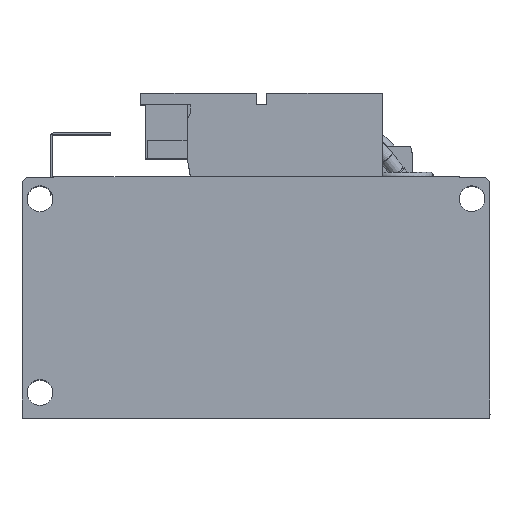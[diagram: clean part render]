
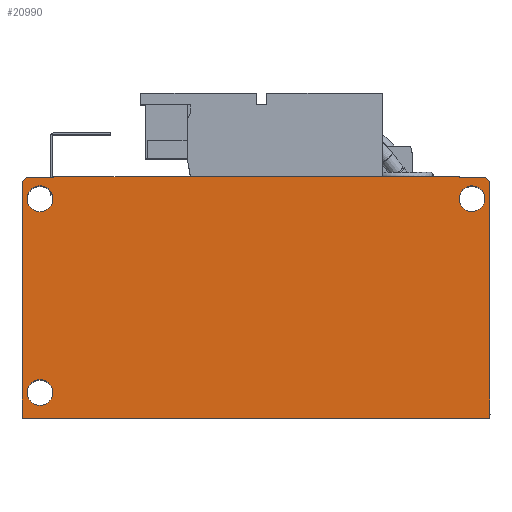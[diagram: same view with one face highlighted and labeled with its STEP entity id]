
A CAD part, top view. The second image highlights one B-rep face of the part: STEP entity #20990.
In plain terms, the highlighted planar face has unit normal (0, 0, 1).
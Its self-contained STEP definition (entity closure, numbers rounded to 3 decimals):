
#1040=CARTESIAN_POINT('',(248.74,-262.884,
501.5));
#1050=VERTEX_POINT('',#1040);
#1100=CARTESIAN_POINT('',(248.74,74.427,
501.5));
#1110=DIRECTION('',(0.,1.,0.));
#1120=VECTOR('',#1110,1.);
#1130=LINE('',#1100,#1120);
#1140=CARTESIAN_POINT('',(248.74,131.616,
501.5));
#1150=VERTEX_POINT('',#1140);
#1160=EDGE_CURVE('',#1050,#1150,#1130,.T.);
#13350=CARTESIAN_POINT('',(243.94,162.616,501.5)
);
#13360=VERTEX_POINT('',#13350);
#13390=CARTESIAN_POINT('',(21.94,162.616,501.5)
);
#13400=DIRECTION('',(1.,0.,0.));
#13410=VECTOR('',#13400,1.);
#13420=LINE('',#13390,#13410);
#13430=CARTESIAN_POINT('',(13.94,162.616,501.5)
);
#13440=VERTEX_POINT('',#13430);
#13450=EDGE_CURVE('',#13440,#13360,#13420,.T.);
#16300=CARTESIAN_POINT('',(13.94,74.427,
501.5));
#16310=DIRECTION('',(0.,1.,0.));
#16320=VECTOR('',#16310,1.);
#16330=LINE('',#16300,#16320);
#16340=CARTESIAN_POINT('',(13.94,-292.384,501.5
));
#16350=VERTEX_POINT('',#16340);
#16360=EDGE_CURVE('',#16350,#13440,#16330,.T.);
#19770=CARTESIAN_POINT('',(650.949,188.829,
501.5));
#19780=DIRECTION('',(0.,0.,-1.));
#19790=DIRECTION('',(0.,1.,0.));
#19800=AXIS2_PLACEMENT_3D('',#19770,#19780,#19790);
#19810=PLANE('',#19800);
#19820=CARTESIAN_POINT('',(247.94,158.616,
501.5));
#19830=DIRECTION('',(-0.707,0.707,0.));
#19840=VECTOR('',#19830,1.);
#19850=LINE('',#19820,#19840);
#19860=CARTESIAN_POINT('',(247.94,158.616,501.5)
);
#19870=VERTEX_POINT('',#19860);
#19880=EDGE_CURVE('',#19870,#13360,#19850,.T.);
#19890=ORIENTED_EDGE('',*,*,#19880,.T.);
#19900=CARTESIAN_POINT('',(247.94,158.616,501.5)
);
#19910=DIRECTION('',(0.,-1.,0.));
#19920=VECTOR('',#19910,1.);
#19930=LINE('',#19900,#19920);
#19940=CARTESIAN_POINT('',(247.94,131.616,
501.5));
#19950=VERTEX_POINT('',#19940);
#19960=EDGE_CURVE('',#19870,#19950,#19930,.T.);
#19970=ORIENTED_EDGE('',*,*,#19960,.F.);
#19980=CARTESIAN_POINT('',(252.259,131.616,
501.5));
#19990=DIRECTION('',(-1.,0.,0.));
#20000=VECTOR('',#19990,1.);
#20010=LINE('',#19980,#20000);
#20020=EDGE_CURVE('',#1150,#19950,#20010,.T.);
#20030=ORIENTED_EDGE('',*,*,#20020,.T.);
#20040=ORIENTED_EDGE('',*,*,#1160,.T.);
#20050=CARTESIAN_POINT('',(13.94,-262.884,
501.5));
#20060=DIRECTION('',(1.,0.,0.));
#20070=VECTOR('',#20060,1.);
#20080=LINE('',#20050,#20070);
#20090=CARTESIAN_POINT('',(247.94,-262.884,
501.5));
#20100=VERTEX_POINT('',#20090);
#20110=EDGE_CURVE('',#20100,#1050,#20080,.T.);
#20120=ORIENTED_EDGE('',*,*,#20110,.T.);
#20130=CARTESIAN_POINT('',(247.94,-288.384,
501.5));
#20140=VERTEX_POINT('',#20130);
#20150=EDGE_CURVE('',#20100,#20140,#19930,.T.);
#20160=ORIENTED_EDGE('',*,*,#20150,.F.);
#20170=CARTESIAN_POINT('',(243.94,-292.384,501.5)
);
#20180=DIRECTION('',(0.707,0.707,0.));
#20190=VECTOR('',#20180,1.);
#20200=LINE('',#20170,#20190);
#20210=CARTESIAN_POINT('',(243.94,-292.384,501.5
));
#20220=VERTEX_POINT('',#20210);
#20230=EDGE_CURVE('',#20220,#20140,#20200,.T.);
#20240=ORIENTED_EDGE('',*,*,#20230,.T.);
#20250=CARTESIAN_POINT('',(243.94,-292.384,501.5
));
#20260=DIRECTION('',(-1.,0.,0.));
#20270=VECTOR('',#20260,1.);
#20280=LINE('',#20250,#20270);
#20290=EDGE_CURVE('',#20220,#16350,#20280,.T.);
#20300=ORIENTED_EDGE('',*,*,#20290,.F.);
#20310=ORIENTED_EDGE('',*,*,#16360,.F.);
#20320=ORIENTED_EDGE('',*,*,#13450,.F.);
#20330=EDGE_LOOP('',(#20320,#20310,#20300,#20240,#20160,#20120,#20040,
#20030,#19970,#19890));
#20340=FACE_OUTER_BOUND('',#20330,.T.);
#20350=CARTESIAN_POINT('',(227.153,145.098,
501.5));
#20360=DIRECTION('',(0.,0.,-1.));
#20370=DIRECTION('',(0.,1.,0.));
#20380=AXIS2_PLACEMENT_3D('',#20350,#20360,#20370);
#20390=CIRCLE('',#20380,12.5);
#20400=CARTESIAN_POINT('',(227.153,157.598,
501.5));
#20410=VERTEX_POINT('',#20400);
#20420=CARTESIAN_POINT('',(227.153,132.598,
501.5));
#20430=VERTEX_POINT('',#20420);
#20440=EDGE_CURVE('',#20410,#20430,#20390,.T.);
#20450=ORIENTED_EDGE('',*,*,#20440,.T.);
#20460=CARTESIAN_POINT('',(227.153,145.098,
501.5));
#20470=DIRECTION('',(0.,-0.,-1.));
#20480=DIRECTION('',(0.,-1.,0.));
#20490=AXIS2_PLACEMENT_3D('',#20460,#20470,#20480);
#20500=CIRCLE('',#20490,12.5);
#20510=EDGE_CURVE('',#20430,#20410,#20500,.T.);
#20520=ORIENTED_EDGE('',*,*,#20510,.T.);
#20530=EDGE_LOOP('',(#20520,#20450));
#20540=FACE_BOUND('',#20530,.T.);
#20550=CARTESIAN_POINT('',(38.728,145.098,
501.5));
#20560=DIRECTION('',(0.,0.,-1.));
#20570=DIRECTION('',(0.,-1.,0.));
#20580=AXIS2_PLACEMENT_3D('',#20550,#20560,#20570);
#20590=CIRCLE('',#20580,12.5);
#20600=CARTESIAN_POINT('',(38.728,132.598,
501.5));
#20610=VERTEX_POINT('',#20600);
#20620=CARTESIAN_POINT('',(38.728,157.598,
501.5));
#20630=VERTEX_POINT('',#20620);
#20640=EDGE_CURVE('',#20610,#20630,#20590,.T.);
#20650=ORIENTED_EDGE('',*,*,#20640,.T.);
#20660=CARTESIAN_POINT('',(38.728,145.098,
501.5));
#20670=DIRECTION('',(0.,0.,-1.));
#20680=DIRECTION('',(0.,1.,0.));
#20690=AXIS2_PLACEMENT_3D('',#20660,#20670,#20680);
#20700=CIRCLE('',#20690,12.5);
#20710=EDGE_CURVE('',#20630,#20610,#20700,.T.);
#20720=ORIENTED_EDGE('',*,*,#20710,.T.);
#20730=EDGE_LOOP('',(#20720,#20650));
#20740=FACE_BOUND('',#20730,.T.);
#20750=CARTESIAN_POINT('',(227.153,-274.865,
501.5));
#20760=DIRECTION('',(0.,-0.,-1.));
#20770=DIRECTION('',(0.,-1.,0.));
#20780=AXIS2_PLACEMENT_3D('',#20750,#20760,#20770);
#20790=CIRCLE('',#20780,12.5);
#20800=CARTESIAN_POINT('',(227.153,-287.365,
501.5));
#20810=VERTEX_POINT('',#20800);
#20820=CARTESIAN_POINT('',(223.59,-262.884,
501.5));
#20830=VERTEX_POINT('',#20820);
#20840=EDGE_CURVE('',#20810,#20830,#20790,.T.);
#20850=ORIENTED_EDGE('',*,*,#20840,.T.);
#20860=CARTESIAN_POINT('',(227.153,-274.865,
501.5));
#20870=DIRECTION('',(0.,0.,-1.));
#20880=DIRECTION('',(0.,1.,0.));
#20890=AXIS2_PLACEMENT_3D('',#20860,#20870,#20880);
#20900=CIRCLE('',#20890,12.5);
#20910=CARTESIAN_POINT('',(230.715,-262.884,
501.5));
#20920=VERTEX_POINT('',#20910);
#20930=EDGE_CURVE('',#20920,#20810,#20900,.T.);
#20940=ORIENTED_EDGE('',*,*,#20930,.T.);
#20950=EDGE_CURVE('',#20830,#20920,#20080,.T.);
#20960=ORIENTED_EDGE('',*,*,#20950,.T.);
#20970=EDGE_LOOP('',(#20960,#20940,#20850));
#20980=FACE_BOUND('',#20970,.T.);
#20990=ADVANCED_FACE('',(#20340,#20540,#20740,#20980),#19810,.F.);
